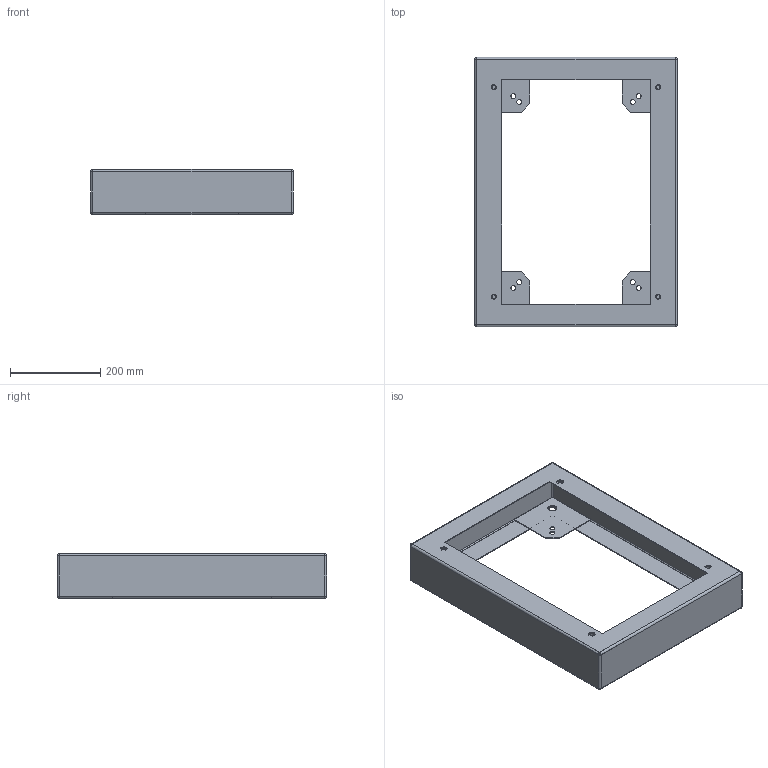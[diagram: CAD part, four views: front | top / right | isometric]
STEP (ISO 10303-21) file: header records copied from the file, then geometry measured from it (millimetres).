
FILE_DESCRIPTION(('STEP AP203'), '1');
FILE_NAME('3710 Öîêîëü ñâàðíîé', '', ('UNSPECIFIED'), ('UNSPECIFIED'), 'C3D Converter', 'C3D Toolkit', '');
FILE_SCHEMA(('CONFIG_CONTROL_DESIGN'));
Length unit declared in the file: millimetre
Products named in the file (2): 3710.60.50
Assembly tree (4 placements, depth 2):
  3710.60.50
    (unnamed)  x4
Bounding box: 450 x 598 x 100 mm (x, y, z)
Volume: 899009.6 mm3; surface area: 835939.8 mm2
Topology: 5 solids, 5 shells, 167 faces, 420 edges, 260 vertices
Faces by surface type: plane 79, cylinder 56, cone 16, sphere 16
Full cylindrical faces by diameter (mm): 8.376 x4, 11 x12, 16 x4, 20 x4
Entity records: 4628 total; most frequent: CARTESIAN_POINT 1434, DIRECTION 660, ORIENTED_EDGE 552, EDGE_CURVE 276, AXIS2_PLACEMENT_3D 259, EDGE_LOOP 194, VERTEX_POINT 182, FACE_BOUND 146
